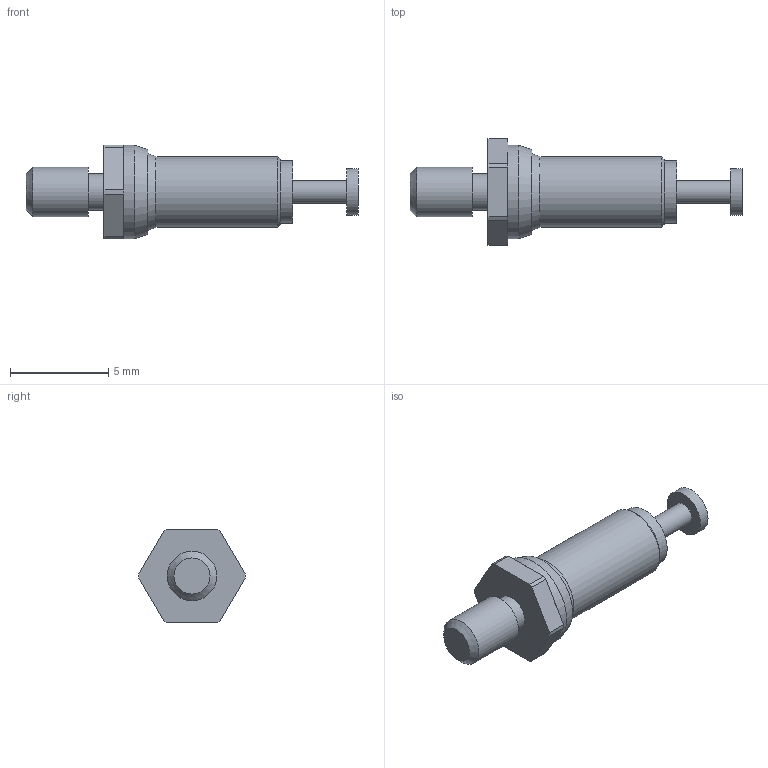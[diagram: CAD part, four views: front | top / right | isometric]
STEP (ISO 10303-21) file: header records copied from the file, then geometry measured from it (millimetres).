
FILE_DESCRIPTION(/* description */ (''),/* implementation_level */ '2;1');
FILE_NAME(/* name */ '\\Snap1\dwgs\Customer 3D Models\570\570-1992-03 Customer model.stp',/* time_stamp */ '2017-01-03T14:47:56+00:00',/* author */ ('paulk'),/* organization */ (''),/* preprocessor_version */ 'ST-DEVELOPER v15.2',/* originating_system */ 'Autodesk Inventor 2014',/* authorisation */ '');
FILE_SCHEMA (('CONFIG_CONTROL_DESIGN'));
Length unit declared in the file: millimetre
Products named in the file (1): 570-1992-03 Customer model
Bounding box: 16.87 x 5.4 x 4.78 mm (x, y, z)
Volume: 137.1 mm3; surface area: 205.6 mm2
Topology: 1 solids, 1 shells, 32 faces, 66 edges, 42 vertices
Faces by surface type: plane 14, cylinder 13, cone 5
Full cylindrical faces by diameter (mm): 1.168 x1, 1.854 x1, 2.388 x1, 2.515 x1, 3.175 x1, 3.607 x1, 4.75 x1
Entity records: 866 total; most frequent: DIRECTION 150, CARTESIAN_POINT 129, ORIENTED_EDGE 108, AXIS2_PLACEMENT_3D 63, EDGE_CURVE 54, EDGE_LOOP 50, VERTEX_POINT 42, STYLED_ITEM 33
